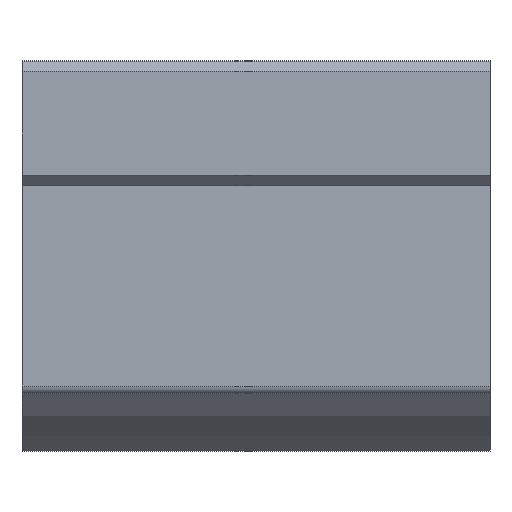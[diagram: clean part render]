
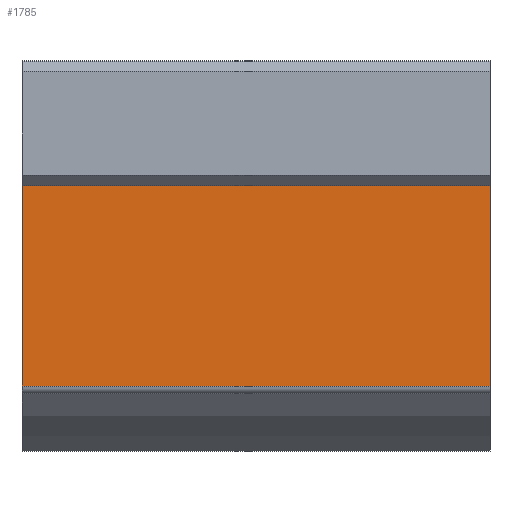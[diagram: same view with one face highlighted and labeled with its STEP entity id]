
A CAD part, front view. The second image highlights one B-rep face of the part: STEP entity #1785.
In plain terms, the highlighted planar face has unit normal (0, -1, 0).
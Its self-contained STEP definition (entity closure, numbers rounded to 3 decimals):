
#1522=CARTESIAN_POINT('',(90.0,-49.,16.));
#1523=VERTEX_POINT('',#1522);
#1530=CARTESIAN_POINT('',(90.0,-49.,-22.5));
#1531=VERTEX_POINT('',#1530);
#1532=CARTESIAN_POINT('',(90.0,-49.,-22.5));
#1533=DIRECTION('',(0.0,0.0,1.0));
#1534=VECTOR('',#1533,38.5);
#1535=LINE('',#1532,#1534);
#1536=EDGE_CURVE('',#1531,#1523,#1535,.T.);
#1600=CARTESIAN_POINT('',(0.0,-49.,-22.5));
#1601=VERTEX_POINT('',#1600);
#1602=CARTESIAN_POINT('',(90.0,-49.,-22.5));
#1603=DIRECTION('',(-1.0,0.0,0.0));
#1604=VECTOR('',#1603,90.0);
#1605=LINE('',#1602,#1604);
#1606=EDGE_CURVE('',#1531,#1601,#1605,.T.);
#1666=CARTESIAN_POINT('',(0.0,-49.,16.));
#1667=VERTEX_POINT('',#1666);
#1668=CARTESIAN_POINT('',(0.0,-49.,16.));
#1669=DIRECTION('',(0.0,0.0,-1.0));
#1670=VECTOR('',#1669,38.5);
#1671=LINE('',#1668,#1670);
#1672=EDGE_CURVE('',#1667,#1601,#1671,.T.);
#1769=CARTESIAN_POINT('',(0.0,-49.,-24.));
#1770=DIRECTION('',(0.0,-1.0,0.0));
#1771=DIRECTION('',(0.0,0.0,-1.0));
#1772=AXIS2_PLACEMENT_3D('',#1769,#1770,#1771);
#1773=PLANE('',#1772);
#1774=ORIENTED_EDGE('',*,*,#1606,.F.);
#1775=ORIENTED_EDGE('',*,*,#1536,.T.);
#1776=CARTESIAN_POINT('',(0.0,-49.,16.));
#1777=DIRECTION('',(1.0,0.0,0.0));
#1778=VECTOR('',#1777,90.0);
#1779=LINE('',#1776,#1778);
#1780=EDGE_CURVE('',#1667,#1523,#1779,.T.);
#1781=ORIENTED_EDGE('',*,*,#1780,.F.);
#1782=ORIENTED_EDGE('',*,*,#1672,.T.);
#1783=EDGE_LOOP('',(#1774,#1775,#1781,#1782));
#1784=FACE_OUTER_BOUND('',#1783,.T.);
#1785=ADVANCED_FACE('',(#1784),#1773,.T.);
